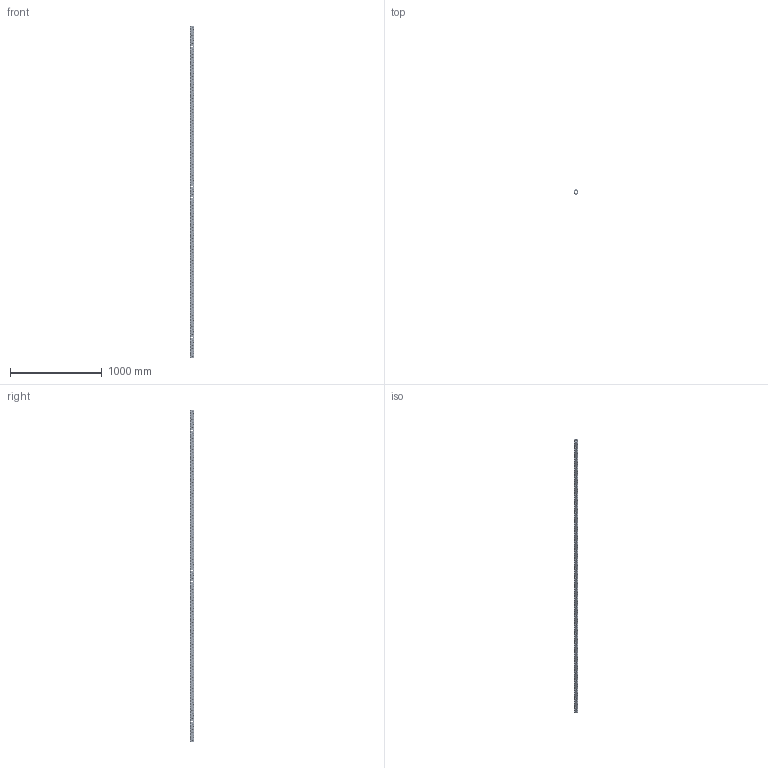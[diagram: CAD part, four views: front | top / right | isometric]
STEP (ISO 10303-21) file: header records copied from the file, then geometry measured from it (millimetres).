
FILE_DESCRIPTION(('CATIA V5 STEP Exchange'),'2;1');
FILE_NAME('U:\Room\唐宝山\EGT002\46-01-010350-01-EGT002-3628.stp','2021-08-25T00:43:23+00:00',('none'),('none'),'CATIA Version 5 Release 21 GA (IN-10)','CATIA V5 STEP AP203','none');
FILE_SCHEMA(('CONFIG_CONTROL_DESIGN'));
Products named in the file (1): 46-01-010350-01-EGT002-3628
Bounding box: 50 x 50 x 3628 mm (x, y, z)
Volume: 2585133 mm3; surface area: 1244860.5 mm2
Topology: 1 solids, 1 shells, 4924 faces, 13556 edges, 8392 vertices
Faces by surface type: cone 2904, cylinder 1994, plane 26
Entity records: 209158 total; most frequent: CARTESIAN_POINT 90681, ORIENTED_EDGE 27112, DIRECTION 18824, EDGE_CURVE 13556, AXIS2_PLACEMENT_3D 8689, VERTEX_POINT 8392, EDGE_LOOP 6620, VECTOR 5212
